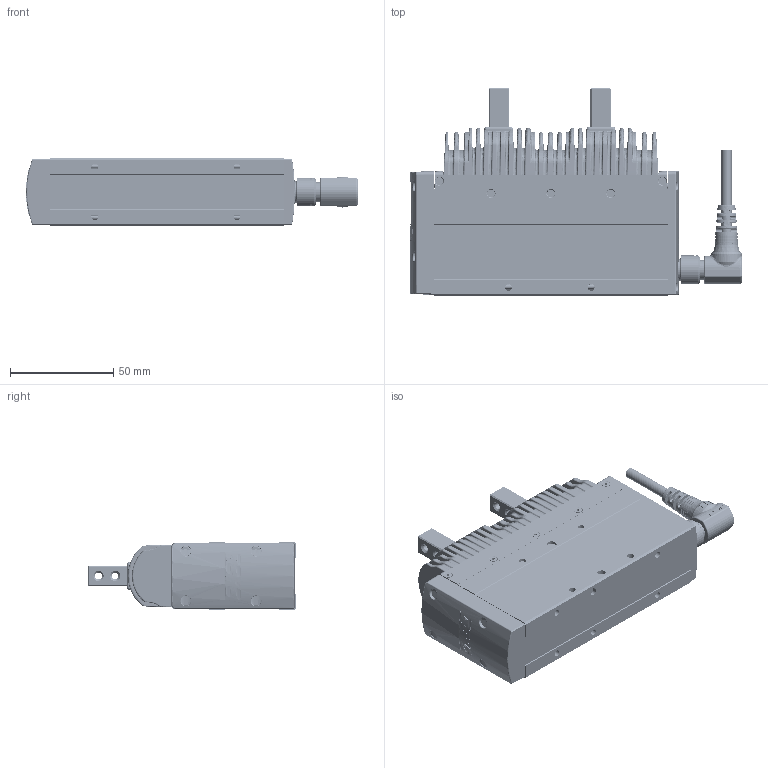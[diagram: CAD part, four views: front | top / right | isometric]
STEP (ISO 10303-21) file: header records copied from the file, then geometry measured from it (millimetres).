
FILE_DESCRIPTION(/* description */ ('STEP AP203'),/* implementation_level */ '2;1');
FILE_NAME(/* name */ 'D:\2025.02.25 帶電匯整給泊舟\3. CHS2系列\4.3D組立\CHS2C-S40-WM.stp',/* time_stamp */ '2025-02-25T18:26:39+08:00',/* author */ ('T10033'),/* organization */ (''),/* preprocessor_version */ 'ST-DEVELOPER v18.1',/* originating_system */ 'Autodesk Inventor 2020',/* authorisation */ '');
FILE_SCHEMA (('CONFIG_CONTROL_DESIGN'));
Products named in the file (6): CHS2C-S40; 12005-000077; 22149-000009-02; 慶陞M12金屬頭; 26TE3Y6DE4R5_Shrinkwrap_1; M12-14PIN 線端90度接頭-05中繼線
Assembly tree (6 placements, depth 2):
  CHS2C-S40
    12005-000077  x2
    22149-000009-02
    慶陞M12金屬頭
    26TE3Y6DE4R5_Shrinkwrap_1
    M12-14PIN 線端90度接頭-05中繼線
Bounding box: 160.72 x 100.5 x 33 mm (x, y, z)
Volume: 246724.7 mm3; surface area: 84498.6 mm2
Topology: 20 solids, 25 shells, 5301 faces, 13888 edges, 8682 vertices
Faces by surface type: plane 1742, bspline 1455, cylinder 1439, cone 404, torus 223, sphere 38
Full cylindrical faces by diameter (mm): 0.6 x14, 0.65 x14, 1 x14, 2 x31, 2.2 x14, 2.5 x42, 3 x5, 3.2 x8, 3.3 x16, 3.8 x9, 4 x6, 4.5 x2, 5 x1, 8 x1, 8.9 x1, 9.5 x2, 9.6 x1, 10.5 x2, 10.9 x1, 11 x2, 11.2 x1, 11.25 x1, 12 x1, 13 x1, 13.8 x1, 14 x2, 14.4 x1, 16.482 x1
Entity records: 249037 total; most frequent: CARTESIAN_POINT 124154, ORIENTED_EDGE 27098, DIRECTION 24603, EDGE_CURVE 13567, AXIS2_PLACEMENT_3D 9730, VERTEX_POINT 8541, EDGE_LOOP 5564, FACE_OUTER_BOUND 5225
